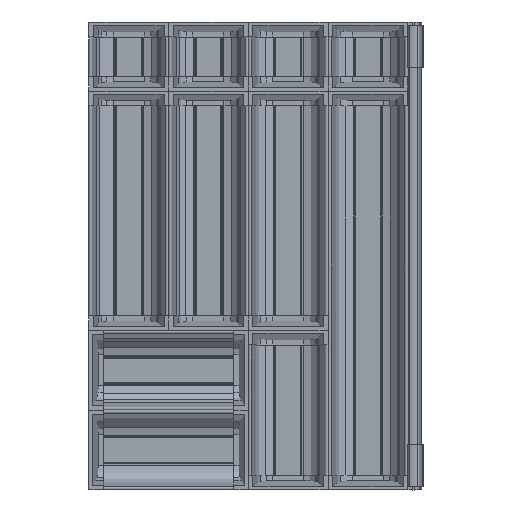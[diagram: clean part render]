
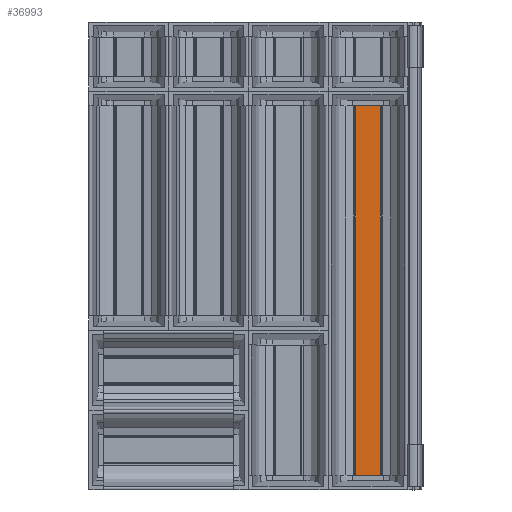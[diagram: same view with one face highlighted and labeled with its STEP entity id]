
A CAD part, top view. The second image highlights one B-rep face of the part: STEP entity #36993.
In plain terms, the highlighted planar face has unit normal (0, 0, 1).
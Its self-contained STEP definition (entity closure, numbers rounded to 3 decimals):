
#5878 = EDGE_CURVE ( 'NONE', #49066, #49079, #33654, .T. ) ;
#5879 = EDGE_CURVE ( 'NONE', #48647, #49079, #33652, .T. ) ;
#5881 = EDGE_CURVE ( 'NONE', #49084, #48647, #33650, .T. ) ;
#5883 = EDGE_CURVE ( 'NONE', #49066, #49084, #33658, .T. ) ;
#17705 = CARTESIAN_POINT ( 'NONE',  ( 330.75, 16.5, 5.6 ) ) ;
#18099 = CARTESIAN_POINT ( 'NONE',  ( 302.75, 436., 5.6 ) ) ;
#18121 = CARTESIAN_POINT ( 'NONE',  ( 302.75, 16.5, 5.6 ) ) ;
#18129 = CARTESIAN_POINT ( 'NONE',  ( 330.75, 436., 5.6 ) ) ;
#18875 = AXIS2_PLACEMENT_3D ( 'NONE', #30414, #30424, #30425 ) ;
#24163 = DIRECTION ( 'NONE',  ( 1., 0., 0. ) ) ;
#24167 = CARTESIAN_POINT ( 'NONE',  ( 330.75, 436., 5.6 ) ) ;
#24191 = DIRECTION ( 'NONE',  ( 0., -1., 0. ) ) ;
#24215 = CARTESIAN_POINT ( 'NONE',  ( 330.75, 441.5, 5.6 ) ) ;
#24653 = DIRECTION ( 'NONE',  ( -1., 0., 0. ) ) ;
#24673 = DIRECTION ( 'NONE',  ( 0., -1., 0. ) ) ;
#24681 = CARTESIAN_POINT ( 'NONE',  ( 302.75, 441.5, 5.6 ) ) ;
#24731 = CARTESIAN_POINT ( 'NONE',  ( 330.75, 16.5, 5.6 ) ) ;
#30414 = CARTESIAN_POINT ( 'NONE',  ( 330.75, 441.5, 5.6 ) ) ;
#30415 = PLANE ( 'NONE',  #18875 ) ;
#30424 = DIRECTION ( 'NONE',  ( 0., 0., -1. ) ) ;
#30425 = DIRECTION ( 'NONE',  ( 0., -1., 0. ) ) ;
#33650 = LINE ( 'NONE', #24215, #33651 ) ;
#33651 = VECTOR ( 'NONE', #24191, 1000. ) ;
#33652 = LINE ( 'NONE', #24731, #33656 ) ;
#33654 = LINE ( 'NONE', #24681, #33655 ) ;
#33655 = VECTOR ( 'NONE', #24673, 1000. ) ;
#33656 = VECTOR ( 'NONE', #24653, 1000. ) ;
#33657 = VECTOR ( 'NONE', #24163, 1000. ) ;
#33658 = LINE ( 'NONE', #24167, #33657 ) ;
#36993 = ADVANCED_FACE ( 'NONE', ( #63030 ), #30415, .F. ) ;
#37842 = ORIENTED_EDGE ( 'NONE', *, *, #5881, .F. ) ;
#37843 = ORIENTED_EDGE ( 'NONE', *, *, #5879, .F. ) ;
#37844 = ORIENTED_EDGE ( 'NONE', *, *, #5878, .T. ) ;
#37845 = ORIENTED_EDGE ( 'NONE', *, *, #5883, .F. ) ;
#40537 = EDGE_LOOP ( 'NONE', ( #37845, #37844, #37843, #37842 ) ) ;
#48647 = VERTEX_POINT ( 'NONE', #17705 ) ;
#49066 = VERTEX_POINT ( 'NONE', #18099 ) ;
#49079 = VERTEX_POINT ( 'NONE', #18121 ) ;
#49084 = VERTEX_POINT ( 'NONE', #18129 ) ;
#63030 = FACE_OUTER_BOUND ( 'NONE', #40537, .T. ) ;
